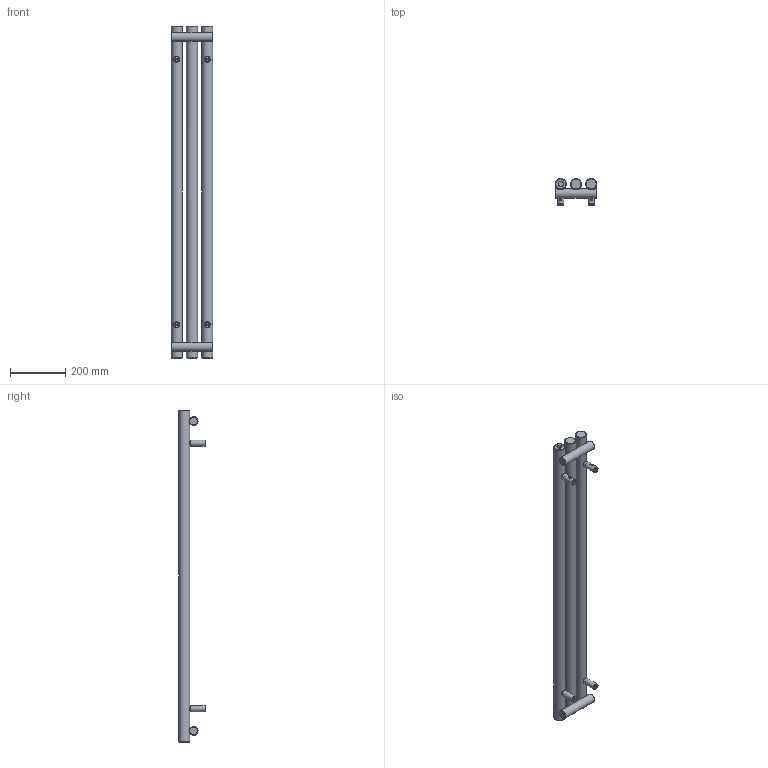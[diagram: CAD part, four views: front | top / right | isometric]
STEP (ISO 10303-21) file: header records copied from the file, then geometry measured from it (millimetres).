
FILE_DESCRIPTION(/* description */ (''),/* implementation_level */ '2;1');
FILE_NAME(/* name */ 'Z:\R\G\P\RGP116 - Grzejniki Geyser\Work\Inventor\Circolo (Rolo V, Rolo H)\ROLO-ROOM\Marketing\Zaokrąglone\WGROR120015-SX-CK-(Z).stp',/* time_stamp */ '2024-01-19T11:47:25+01:00',/* author */ ('NowAd'),/* organization */ (''),/* preprocessor_version */ 'ST-DEVELOPER v17.2',/* originating_system */ 'Autodesk Inventor 2019',/* authorisation */ '');
FILE_SCHEMA (('AUTOMOTIVE_DESIGN { 1 0 10303 214 3 1 1 }'));
Length unit declared in the file: millimetre
Products named in the file (3): WGROR120015-SX-CK-(Z); PGROR120015-SX-CK-(K); CK-V-fi40 marketing
Assembly tree (5 placements, depth 2):
  WGROR120015-SX-CK-(Z)
    PGROR120015-SX-CK-(K)
    CK-V-fi40 marketing  x4
Bounding box: 150 x 96.5 x 1200 mm (x, y, z)
Volume: 4804911.6 mm3; surface area: 522581.7 mm2
Topology: 5 solids, 5 shells, 305 faces, 774 edges, 518 vertices
Faces by surface type: plane 129, cylinder 72, cone 60, torus 38, bspline 6
Full cylindrical faces by diameter (mm): 4.134 x4, 4.48 x4, 6.4 x4, 10 x4, 12 x4, 15.834 x4, 16 x4, 18.631 x3, 22 x4, 32 x2, 40 x3
Entity records: 5255 total; most frequent: CARTESIAN_POINT 2271, DIRECTION 627, ORIENTED_EDGE 586, EDGE_CURVE 293, AXIS2_PLACEMENT_3D 277, VERTEX_POINT 200, EDGE_LOOP 153, CIRCLE 145
